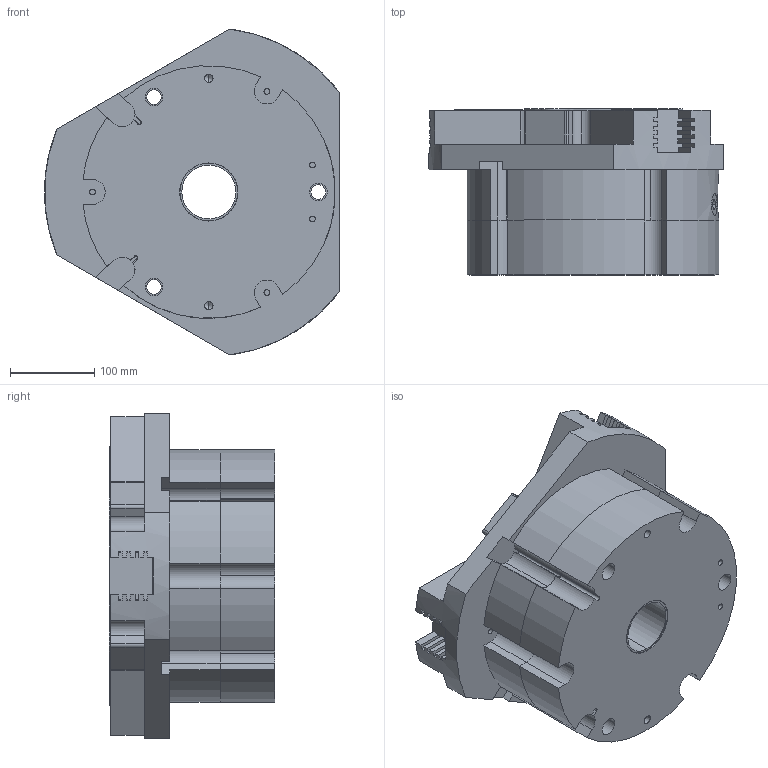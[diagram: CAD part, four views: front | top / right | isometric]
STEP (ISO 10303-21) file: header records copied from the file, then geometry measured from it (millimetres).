
FILE_DESCRIPTION (( 'STEP AP214' ), '1' );
FILE_NAME ('THB-300A-1-AS.STEP', '2021-01-18T02:55:12', ( '' ), ( '' ), 'SwSTEP 2.0', 'SolidWorks 2016', '' );
FILE_SCHEMA (( 'AUTOMOTIVE_DESIGN' ));
Length unit declared in the file: millimetre
Products named in the file (6): THB-300A-1-AS-01; THB-300A-1-AS-03; THB-300A-1-AS-05; THB-300A-1-AS-04; THB-300A-1-AS; THB-300A-1-AS-02
Assembly tree (7 placements, depth 2):
  THB-300A-1-AS
    THB-300A-1-AS-01
    THB-300A-1-AS-02  x3
    THB-300A-1-AS-03
    THB-300A-1-AS-04
    THB-300A-1-AS-05
Bounding box: 349.86 x 197 x 386.79 mm (x, y, z)
Volume: 12601962.7 mm3; surface area: 980946.7 mm2
Topology: 7 solids, 7 shells, 581 faces, 1623 edges, 1054 vertices
Faces by surface type: plane 325, cylinder 200, cone 56
Entity records: 15739 total; most frequent: CARTESIAN_POINT 2772, DIRECTION 2717, ORIENTED_EDGE 2550, EDGE_CURVE 1275, AXIS2_PLACEMENT_3D 975, VERTEX_POINT 842, LINE 767, VECTOR 767
